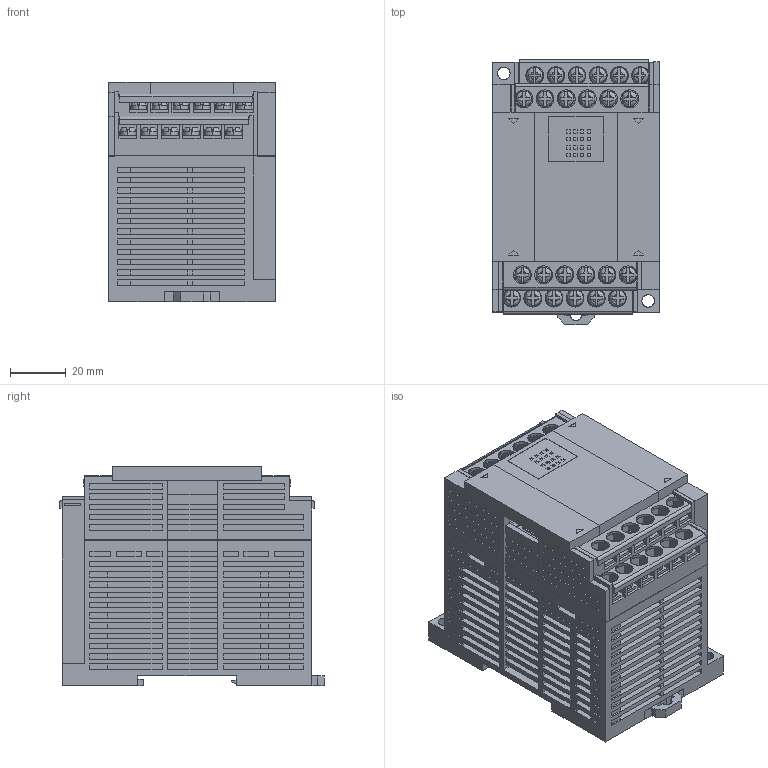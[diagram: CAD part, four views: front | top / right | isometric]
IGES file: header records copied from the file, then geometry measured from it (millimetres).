
Global section: preprocessor: SolidWorks 2008; organization: PanasonicElectricWorks; date: 090828.104944; units: millimetre
Bounding box: 60 x 95.4 x 79 mm (x, y, z)
Surface area: 66968.9 mm2 (no closed solid volume)
Topology: 0 solids, 0 shells, 2237 faces, 15904 edges, 15894 vertices
Faces by surface type: bspline 2105, revolution 132
